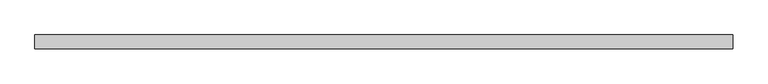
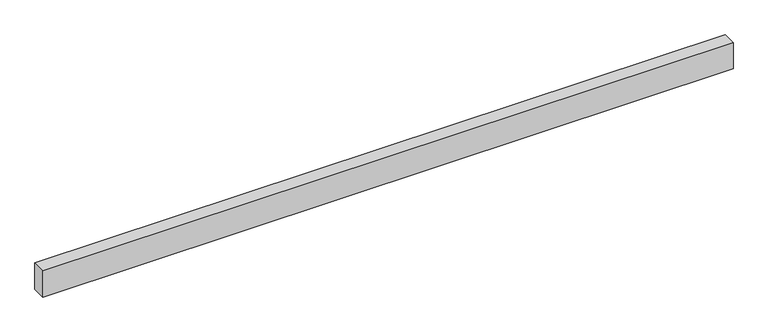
"""IFC4 building model written with IfcOpenShell, lengths in millimetres: proxy geometry, Кабель-каналы_магистральные_цвет-белый : Кабель-канал магистральный 80х40 белый."""

import ifcopenshell
import ifcopenshell.guid

model = None  # the IFC model being written
_history = None  # IfcOwnerHistory: only IFC2X3 demands one
_inside = {}  # id of a spatial element -> (the spatial element, [elements in it])
_under = {}  # id of a project, library or spatial element -> (it, [spatial elements below it])
_declared = {}  # id of a project -> (the project, [libraries it declares])
_typed = {}  # id of a type object -> (the type object, [elements of that type])
_made_of = {}  # id of a material, layer set ... -> (it, [elements and type objects made of it])


def new_model(schema):
    """Start an empty IFC model of exactly this schema.

    Asked for "IFC4X3", IfcOpenShell would pick the latest addendum, in which some entities
    have other attributes; the version numbers below select the first issue.
    IFC2X3 requires an IfcOwnerHistory on every rooted entity: one is made here for all.
    """
    global model, _history
    if schema == "IFC4X3":
        model = ifcopenshell.file(schema_version=(4, 3, 0, 0))
    else:
        model = ifcopenshell.file(schema=schema)
    _inside.clear()
    _under.clear()
    _declared.clear()
    _typed.clear()
    _made_of.clear()
    _history = None
    if model.schema == "IFC2X3":
        org = make("IfcOrganization", Name="unknown")
        user = make(
            "IfcPersonAndOrganization",
            ThePerson=make("IfcPerson", FamilyName="unknown"),
            TheOrganization=org,
        )
        app = make(
            "IfcApplication",
            ApplicationDeveloper=org,
            Version="unknown",
            ApplicationFullName="unknown",
            ApplicationIdentifier="unknown",
        )
        _history = make(
            "IfcOwnerHistory",
            OwningUser=user,
            OwningApplication=app,
            ChangeAction="ADDED",
            CreationDate=0,
        )
    return model


def make(cls, **values):
    """One entity of the class cls with the attributes given. An attribute that is None is left unset."""
    return model.create_entity(
        cls, **{name: value for name, value in values.items() if value is not None}
    )


def rooted(cls, **values):
    """An entity with a GlobalId (a new one), such as an element, a storey or a relation."""
    return make(cls, GlobalId=ifcopenshell.guid.new(), OwnerHistory=_history, **values)


def si_unit(unit_type, name, prefix=None):
    """IfcSIUnit, for example si_unit("LENGTHUNIT", "METRE", prefix="MILLI")."""
    return make("IfcSIUnit", UnitType=unit_type, Prefix=prefix, Name=name)


def assignment(units):
    """IfcUnitAssignment: the units of a project."""
    return None if units is None else make("IfcUnitAssignment", Units=units)


def point(xyz):
    """IfcCartesianPoint."""
    return None if xyz is None else make("IfcCartesianPoint", Coordinates=xyz)


def direction(xyz):
    """IfcDirection."""
    return None if xyz is None else make("IfcDirection", DirectionRatios=xyz)


def frame(location, z_axis=None, x_axis=None):
    """IfcAxis2Placement3D, a coordinate frame: its origin and axes. An axis left out is left unset."""
    return make(
        "IfcAxis2Placement3D",
        Location=point(location),
        Axis=direction(z_axis),
        RefDirection=direction(x_axis),
    )


def origin():
    """The frame at (0, 0, 0) with its axes left unset."""
    return frame((0.0, 0.0, 0.0))


def origin_with_axes():
    """The frame at (0, 0, 0) with the z axis (0, 0, 1) and the x axis (1, 0, 0) written out."""
    return frame((0.0, 0.0, 0.0), z_axis=(0.0, 0.0, 1.0), x_axis=(1.0, 0.0, 0.0))


def place(relative_to, where):
    """IfcLocalPlacement: puts the frame where relative to a parent placement (None: the world)."""
    return make(
        "IfcLocalPlacement", PlacementRelTo=relative_to, RelativePlacement=where
    )


def context(
    kind, dimensions, precision=None, world=None, true_north=None, identifier=None
):
    """IfcGeometricRepresentationContext, for example the 3D "Model" context."""
    return make(
        "IfcGeometricRepresentationContext",
        ContextIdentifier=identifier,
        ContextType=kind,
        CoordinateSpaceDimension=dimensions,
        Precision=precision,
        WorldCoordinateSystem=world,
        TrueNorth=true_north,
    )


def project(units=None, contexts=None):
    """IfcProject with its units and contexts."""
    return rooted(
        "IfcProject",
        Name="project",
        RepresentationContexts=contexts,
        UnitsInContext=assignment(units),
    )


def spatial(cls, under=None, at=None, **own):
    """A site, building, storey or space (cls), placed at a placement, below another one or the project."""
    s = rooted(cls, ObjectPlacement=at, **own)
    if under is not None:
        _under.setdefault(under.id(), (under, []))[1].append(s)
    return s


def polyline(points):
    """IfcPolyline through the points."""
    return make("IfcPolyline", Points=[point(p) for p in points])


def outline(outer, holes=None, kind="AREA"):
    """IfcArbitraryClosedProfileDef: a profile drawn as a closed curve; with holes, ...WithVoids."""
    if holes is None:
        return make("IfcArbitraryClosedProfileDef", ProfileType=kind, OuterCurve=outer)
    return make(
        "IfcArbitraryProfileDefWithVoids",
        ProfileType=kind,
        OuterCurve=outer,
        InnerCurves=holes,
    )


def extrude(swept, where, along, depth):
    """IfcExtrudedAreaSolid: the profile swept, set in the frame where, extruded along a direction by depth."""
    return make(
        "IfcExtrudedAreaSolid",
        SweptArea=swept,
        Position=where,
        ExtrudedDirection=direction(along),
        Depth=depth,
    )


def shape(context_of_items, identifier, shape_type, items):
    """IfcShapeRepresentation: the items that make up one representation, for example the "Body"."""
    return make(
        "IfcShapeRepresentation",
        ContextOfItems=context_of_items,
        RepresentationIdentifier=identifier,
        RepresentationType=shape_type,
        Items=items,
    )


def source(mapping_origin, context_of_items, identifier, shape_type, items):
    """IfcRepresentationMap: a shape defined once, which mapped items show again and again."""
    return make(
        "IfcRepresentationMap",
        MappingOrigin=mapping_origin,
        MappedRepresentation=shape(context_of_items, identifier, shape_type, items),
    )


def transform(
    local_origin,
    x_axis=None,
    y_axis=None,
    z_axis=None,
    scale=None,
    scale2=None,
    scale3=None,
    uniform=True,
):
    """IfcCartesianTransformationOperator3D, or its non-uniform kind. x_axis, y_axis, z_axis: its Axis1, 2, 3."""
    if uniform:
        return make(
            "IfcCartesianTransformationOperator3D",
            Axis1=direction(x_axis),
            Axis2=direction(y_axis),
            LocalOrigin=point(local_origin),
            Scale=scale,
            Axis3=direction(z_axis),
        )
    return make(
        "IfcCartesianTransformationOperator3DnonUniform",
        Axis1=direction(x_axis),
        Axis2=direction(y_axis),
        LocalOrigin=point(local_origin),
        Scale=scale,
        Axis3=direction(z_axis),
        Scale2=scale2,
        Scale3=scale3,
    )


def mapped(mapping_source, mapping_target):
    """IfcMappedItem: shows the shape of a source again, moved by a transform."""
    return make(
        "IfcMappedItem", MappingSource=mapping_source, MappingTarget=mapping_target
    )


def made_of(thing, what):
    """Note that an element or type object is made of a material, layer set ...; save() writes the relation."""
    if what is not None:
        _made_of.setdefault(what.id(), (what, []))[1].append(thing)
    return thing


def element(
    cls,
    number,
    at=None,
    inside=None,
    cuts=None,
    type_object=None,
    material=None,
    context=None,
    identifier="Body",
    shape_type=None,
    held_by="IfcProductDefinitionShape",
    body=None,
    shapes=None,
    **own,
):
    """One element of the class cls, such as IfcWall. Its Tag is "e" and its number.

    at: its placement. inside: the storey or other place that contains it. cuts: it is an
    opening in that element (IfcRelVoidsElement). A single representation is given by context,
    identifier, shape_type and body (its items); several are given by shapes. held_by: the class
    of the entity that holds the representations. save() writes the other relations.
    """
    e = rooted(cls, Tag="e%d" % number, ObjectPlacement=at, **own)
    if body is not None:
        shapes = [shape(context, identifier, shape_type, body)]
    if shapes is not None:
        e.Representation = make(held_by, Representations=shapes)
    if inside is not None:
        _inside.setdefault(inside.id(), (inside, []))[1].append(e)
    if cuts is not None:
        rooted(
            "IfcRelVoidsElement", RelatingBuildingElement=cuts, RelatedOpeningElement=e
        )
    if type_object is not None:
        _typed.setdefault(type_object.id(), (type_object, []))[1].append(e)
    return made_of(e, material)


def aggregate(whole, parts):
    """IfcRelAggregates: a whole, such as a stair, and the parts it consists of."""
    return rooted("IfcRelAggregates", RelatingObject=whole, RelatedObjects=parts)


def save(model, path):
    """Write the relations noted so far, then the file.

    IfcRelAggregates (storeys below a building ...), IfcRelContainedInSpatialStructure (elements
    in a storey), IfcRelDefinesByType, IfcRelAssociatesMaterial and IfcRelDeclares: one each for
    every whole, place, type object, material and project.
    """
    for whole, parts in _under.values():
        aggregate(whole, parts)
    for where, things in _inside.values():
        rooted(
            "IfcRelContainedInSpatialStructure",
            RelatedElements=things,
            RelatingStructure=where,
        )
    for kind, things in _typed.values():
        rooted("IfcRelDefinesByType", RelatedObjects=things, RelatingType=kind)
    for what, things in _made_of.values():
        rooted("IfcRelAssociatesMaterial", RelatedObjects=things, RelatingMaterial=what)
    for by, libraries in _declared.values():
        rooted("IfcRelDeclares", RelatingContext=by, RelatedDefinitions=libraries)
    model.write(path)


def generic_models_a1a22cdc(model_context):
    return source(origin(), model_context, "Body", "SweptSolid", [
        extrude(outline(polyline([(2000.0, -40.0), (0.0, -40.0), (0.0, 0.0), (2000.0, 0.0), (2000.0, -40.0)])), origin_with_axes(), (0.0, 0.0, 1.0), 80.0),
    ])


if __name__ == "__main__":
    model = new_model("IFC4")
    model_context = context("Model", 3, world=origin())
    ifc_project = project(units=[si_unit("LENGTHUNIT", "METRE", prefix="MILLI")], contexts=[model_context])
    site = spatial("IfcSite", under=ifc_project)
    building = spatial("IfcBuilding", under=site)
    placement = place(None, origin())
    generic_models_shape = generic_models_a1a22cdc(model_context)
    element("IfcBuildingElementProxy", 1, Name="Кабель-каналы_магистральные_цвет-белый : Кабель-канал магистральный 80х40 белый", ObjectType="Кабель-каналы_магистральные_цвет-белый : Кабель-канал магистральный 80х40 белый", at=placement, inside=building, context=model_context, shape_type="MappedRepresentation", body=[
        mapped(generic_models_shape, transform((0.0, 0.0, 0.0), x_axis=(1.0, 0.0, 0.0), y_axis=(0.0, 1.0, 0.0), z_axis=(0.0, 0.0, 1.0))),
    ])
    save(model, "model.ifc")
